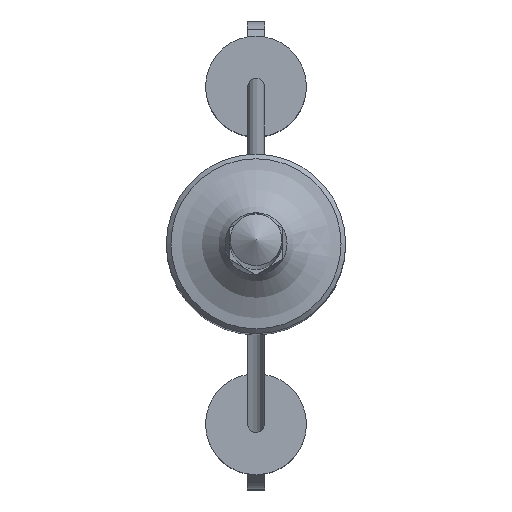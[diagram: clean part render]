
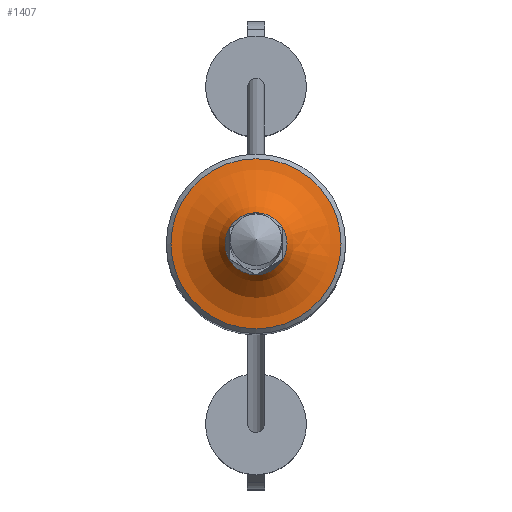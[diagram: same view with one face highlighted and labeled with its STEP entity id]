
A CAD part, top view. The second image highlights one B-rep face of the part: STEP entity #1407.
In plain terms, the highlighted toroidal (fillet/blend) face has major radius 4 mm and minor radius 3.029 mm.
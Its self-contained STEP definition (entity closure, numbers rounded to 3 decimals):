
#4 = CARTESIAN_POINT ( 'NONE',  ( -1.385, 0.122, -3.5 ) ) ;
#12 = CARTESIAN_POINT ( 'NONE',  ( 0.475, 1.305, -3.497 ) ) ;
#17 = CARTESIAN_POINT ( 'NONE',  ( 1.26, 0.587, -3.5 ) ) ;
#22 = CARTESIAN_POINT ( 'NONE',  ( 0., -1.385, -3.5 ) ) ;
#69 = VERTEX_POINT ( 'NONE', #1512 ) ;
#90 = ORIENTED_EDGE ( 'NONE', *, *, #810, .F. ) ;
#127 = CARTESIAN_POINT ( 'NONE',  ( -1.064, -0.893, -3.498 ) ) ;
#132 = CARTESIAN_POINT ( 'NONE',  ( 0.475, -1.305, -3.497 ) ) ;
#140 = CARTESIAN_POINT ( 'NONE',  ( 0., 1.385, -3.5 ) ) ;
#142 = CARTESIAN_POINT ( 'NONE',  ( -1.139, 0.798, -3.5 ) ) ;
#153 = CARTESIAN_POINT ( 'NONE',  ( 0., 1.385, -3.5 ) ) ;
#161 = CARTESIAN_POINT ( 'NONE',  ( -0.241, 1.368, -3.498 ) ) ;
#168 = CARTESIAN_POINT ( 'NONE',  ( -1.26, 0.587, -3.5 ) ) ;
#183 = AXIS2_PLACEMENT_3D ( 'NONE', #1239, #1891, #430 ) ;
#191 = EDGE_CURVE ( 'NONE', #1253, #1180, #1173, .T. ) ;
#208 = CARTESIAN_POINT ( 'NONE',  ( 1.26, -0.587, -3.5 ) ) ;
#260 = CARTESIAN_POINT ( 'NONE',  ( 1.139, -0.798, -3.5 ) ) ;
#313 = EDGE_CURVE ( 'NONE', #714, #1066, #840, .T. ) ;
#354 = CARTESIAN_POINT ( 'NONE',  ( 1.199, -0.692, -3.5 ) ) ;
#430 = DIRECTION ( 'NONE',  ( 1., 0., 0. ) ) ;
#443 = CARTESIAN_POINT ( 'NONE',  ( -0.893, -1.063, -3.497 ) ) ;
#453 = ORIENTED_EDGE ( 'NONE', *, *, #1749, .T. ) ;
#490 = CARTESIAN_POINT ( 'NONE',  ( 0.589, 1.259, -3.5 ) ) ;
#529 = CARTESIAN_POINT ( 'NONE',  ( 1.064, 0.893, -3.498 ) ) ;
#543 = CARTESIAN_POINT ( 'NONE',  ( 1.385, 0.119, -3.5 ) ) ;
#581 = CARTESIAN_POINT ( 'NONE',  ( 0.587, -1.26, -3.5 ) ) ;
#628 = CARTESIAN_POINT ( 'NONE',  ( -1.199, -0.692, -3.5 ) ) ;
#631 = ORIENTED_EDGE ( 'NONE', *, *, #1596, .F. ) ;
#651 = CARTESIAN_POINT ( 'NONE',  ( -1.306, -0.473, -3.498 ) ) ;
#659 = CARTESIAN_POINT ( 'NONE',  ( 0.243, 1.368, -3.498 ) ) ;
#684 = CARTESIAN_POINT ( 'NONE',  ( -1.26, -0.587, -3.5 ) ) ;
#706 = CARTESIAN_POINT ( 'NONE',  ( 0., 0., -4.993 ) ) ;
#714 = VERTEX_POINT ( 'NONE', #140 ) ;
#746 = CARTESIAN_POINT ( 'NONE',  ( 0., -1.385, -3.5 ) ) ;
#771 = CARTESIAN_POINT ( 'NONE',  ( 0.796, -1.14, -3.5 ) ) ;
#775 = CARTESIAN_POINT ( 'NONE',  ( -0.243, -1.368, -3.498 ) ) ;
#778 = B_SPLINE_CURVE_WITH_KNOTS ( 'NONE', 3,
 ( #979, #168, #1462, #1110, #4, #1755, #1302, #651, #684, #827 ),
 .UNSPECIFIED., .F., .F.,
 ( 4, 2, 2, 2, 4 ),
 ( 0., 0., 0.001, 0.001, 0.001 ),
 .UNSPECIFIED. ) ;
#787 = CARTESIAN_POINT ( 'NONE',  ( -1.199, 0.692, -3.5 ) ) ;
#804 = EDGE_CURVE ( 'NONE', #1066, #1246, #778, .T. ) ;
#810 = EDGE_CURVE ( 'NONE', #1180, #2101, #2017, .T. ) ;
#811 = CARTESIAN_POINT ( 'NONE',  ( -0.587, 1.26, -3.5 ) ) ;
#813 = CARTESIAN_POINT ( 'NONE',  ( -0.797, -1.139, -3.5 ) ) ;
#827 = CARTESIAN_POINT ( 'NONE',  ( -1.199, -0.692, -3.5 ) ) ;
#840 = B_SPLINE_CURVE_WITH_KNOTS ( 'NONE', 3,
 ( #153, #1128, #161, #1295, #811, #1139, #1921, #1598, #142, #1764 ),
 .UNSPECIFIED., .F., .F.,
 ( 4, 2, 2, 2, 4 ),
 ( 0., 0., 0.001, 0.001, 0.001 ),
 .UNSPECIFIED. ) ;
#869 = CARTESIAN_POINT ( 'NONE',  ( 1.306, 0.473, -3.498 ) ) ;
#913 = FACE_OUTER_BOUND ( 'NONE', #1892, .T. ) ;
#936 = AXIS2_PLACEMENT_3D ( 'NONE', #706, #2019, #1212 ) ;
#979 = CARTESIAN_POINT ( 'NONE',  ( -1.199, 0.692, -3.5 ) ) ;
#1000 = CARTESIAN_POINT ( 'NONE',  ( 1.385, -0.122, -3.5 ) ) ;
#1021 = EDGE_CURVE ( 'NONE', #1246, #1253, #1468, .T. ) ;
#1066 = VERTEX_POINT ( 'NONE', #787 ) ;
#1095 = CARTESIAN_POINT ( 'NONE',  ( -0.589, -1.259, -3.5 ) ) ;
#1110 = CARTESIAN_POINT ( 'NONE',  ( -1.367, 0.242, -3.497 ) ) ;
#1128 = CARTESIAN_POINT ( 'NONE',  ( -0.122, 1.385, -3.5 ) ) ;
#1139 = CARTESIAN_POINT ( 'NONE',  ( -0.796, 1.14, -3.5 ) ) ;
#1141 = CARTESIAN_POINT ( 'NONE',  ( 0.797, 1.139, -3.5 ) ) ;
#1146 = ORIENTED_EDGE ( 'NONE', *, *, #313, .F. ) ;
#1163 = CARTESIAN_POINT ( 'NONE',  ( -1.199, -0.692, -3.5 ) ) ;
#1173 = B_SPLINE_CURVE_WITH_KNOTS ( 'NONE', 3,
 ( #746, #1716, #1238, #132, #581, #771, #1909, #1380, #260, #2077 ),
 .UNSPECIFIED., .F., .F.,
 ( 4, 2, 2, 2, 4 ),
 ( 0., 0., 0.001, 0.001, 0.001 ),
 .UNSPECIFIED. ) ;
#1174 = CARTESIAN_POINT ( 'NONE',  ( 1.199, 0.692, -3.5 ) ) ;
#1180 = VERTEX_POINT ( 'NONE', #354 ) ;
#1212 = DIRECTION ( 'NONE',  ( 1., 0., 0. ) ) ;
#1238 = CARTESIAN_POINT ( 'NONE',  ( 0.241, -1.368, -3.498 ) ) ;
#1239 = CARTESIAN_POINT ( 'NONE',  ( 0., 0., -1.971 ) ) ;
#1246 = VERTEX_POINT ( 'NONE', #1163 ) ;
#1253 = VERTEX_POINT ( 'NONE', #22 ) ;
#1295 = CARTESIAN_POINT ( 'NONE',  ( -0.475, 1.305, -3.497 ) ) ;
#1296 = CARTESIAN_POINT ( 'NONE',  ( 1.199, 0.692, -3.5 ) ) ;
#1302 = CARTESIAN_POINT ( 'NONE',  ( -1.368, -0.24, -3.497 ) ) ;
#1307 = CARTESIAN_POINT ( 'NONE',  ( 0.122, 1.385, -3.5 ) ) ;
#1334 = CARTESIAN_POINT ( 'NONE',  ( 1.305, -0.476, -3.498 ) ) ;
#1354 = CARTESIAN_POINT ( 'NONE',  ( 1.368, 0.24, -3.497 ) ) ;
#1380 = CARTESIAN_POINT ( 'NONE',  ( 1.063, -0.894, -3.498 ) ) ;
#1407 = ADVANCED_FACE ( 'NONE', ( #913, #1556 ), #1612, .F. ) ;
#1422 = CARTESIAN_POINT ( 'NONE',  ( -0.475, -1.305, -3.497 ) ) ;
#1456 = CARTESIAN_POINT ( 'NONE',  ( 1.139, 0.798, -3.5 ) ) ;
#1458 = CARTESIAN_POINT ( 'NONE',  ( 0., -1.385, -3.5 ) ) ;
#1462 = CARTESIAN_POINT ( 'NONE',  ( -1.305, 0.476, -3.498 ) ) ;
#1468 = B_SPLINE_CURVE_WITH_KNOTS ( 'NONE', 3,
 ( #628, #1592, #127, #443, #813, #1095, #1422, #775, #1741, #1458 ),
 .UNSPECIFIED., .F., .F.,
 ( 4, 2, 2, 2, 4 ),
 ( 0., 0., 0.001, 0.001, 0.001 ),
 .UNSPECIFIED. ) ;
#1512 = CARTESIAN_POINT ( 'NONE',  ( 3.793, 0., -4.993 ) ) ;
#1556 = FACE_OUTER_BOUND ( 'NONE', #1588, .T. ) ;
#1588 = EDGE_LOOP ( 'NONE', ( #631, #90, #1659, #1874, #2049, #1146 ) ) ;
#1592 = CARTESIAN_POINT ( 'NONE',  ( -1.139, -0.798, -3.5 ) ) ;
#1596 = EDGE_CURVE ( 'NONE', #2101, #714, #1951, .T. ) ;
#1598 = CARTESIAN_POINT ( 'NONE',  ( -1.063, 0.894, -3.498 ) ) ;
#1612 = TOROIDAL_SURFACE ( 'NONE', #183, 4., 3.029 ) ;
#1659 = ORIENTED_EDGE ( 'NONE', *, *, #191, .F. ) ;
#1716 = CARTESIAN_POINT ( 'NONE',  ( 0.122, -1.385, -3.5 ) ) ;
#1741 = CARTESIAN_POINT ( 'NONE',  ( -0.122, -1.385, -3.5 ) ) ;
#1749 = EDGE_CURVE ( 'NONE', #69, #69, #1848, .T. ) ;
#1755 = CARTESIAN_POINT ( 'NONE',  ( -1.385, -0.119, -3.5 ) ) ;
#1764 = CARTESIAN_POINT ( 'NONE',  ( -1.199, 0.692, -3.5 ) ) ;
#1814 = CARTESIAN_POINT ( 'NONE',  ( 1.367, -0.242, -3.497 ) ) ;
#1848 = CIRCLE ( 'NONE', #936, 3.793 ) ;
#1874 = ORIENTED_EDGE ( 'NONE', *, *, #1021, .F. ) ;
#1891 = DIRECTION ( 'NONE',  ( 0., 0., 1. ) ) ;
#1892 = EDGE_LOOP ( 'NONE', ( #453 ) ) ;
#1909 = CARTESIAN_POINT ( 'NONE',  ( 0.892, -1.064, -3.497 ) ) ;
#1921 = CARTESIAN_POINT ( 'NONE',  ( -0.892, 1.064, -3.497 ) ) ;
#1950 = CARTESIAN_POINT ( 'NONE',  ( 0.893, 1.063, -3.497 ) ) ;
#1951 = B_SPLINE_CURVE_WITH_KNOTS ( 'NONE', 3,
 ( #1296, #1456, #529, #1950, #1141, #490, #12, #659, #1307, #1961 ),
 .UNSPECIFIED., .F., .F.,
 ( 4, 2, 2, 2, 4 ),
 ( 0., 0., 0.001, 0.001, 0.001 ),
 .UNSPECIFIED. ) ;
#1961 = CARTESIAN_POINT ( 'NONE',  ( 0., 1.385, -3.5 ) ) ;
#1975 = CARTESIAN_POINT ( 'NONE',  ( 1.199, -0.692, -3.5 ) ) ;
#1988 = CARTESIAN_POINT ( 'NONE',  ( 1.199, 0.692, -3.5 ) ) ;
#2017 = B_SPLINE_CURVE_WITH_KNOTS ( 'NONE', 3,
 ( #1975, #208, #1334, #1814, #1000, #543, #1354, #869, #17, #1988 ),
 .UNSPECIFIED., .F., .F.,
 ( 4, 2, 2, 2, 4 ),
 ( 0., 0., 0.001, 0.001, 0.001 ),
 .UNSPECIFIED. ) ;
#2019 = DIRECTION ( 'NONE',  ( 0., 0., 1. ) ) ;
#2049 = ORIENTED_EDGE ( 'NONE', *, *, #804, .F. ) ;
#2077 = CARTESIAN_POINT ( 'NONE',  ( 1.199, -0.692, -3.5 ) ) ;
#2101 = VERTEX_POINT ( 'NONE', #1174 ) ;
